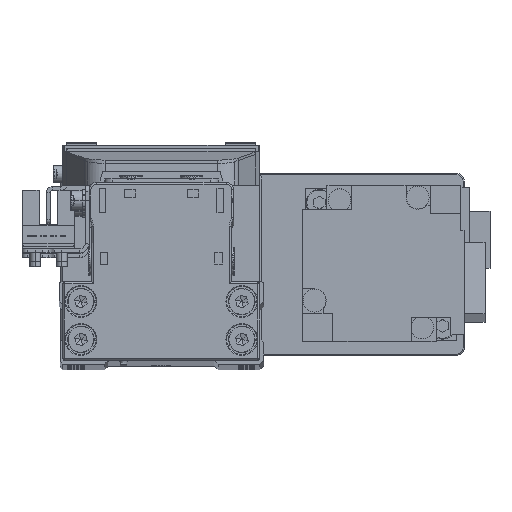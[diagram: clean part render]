
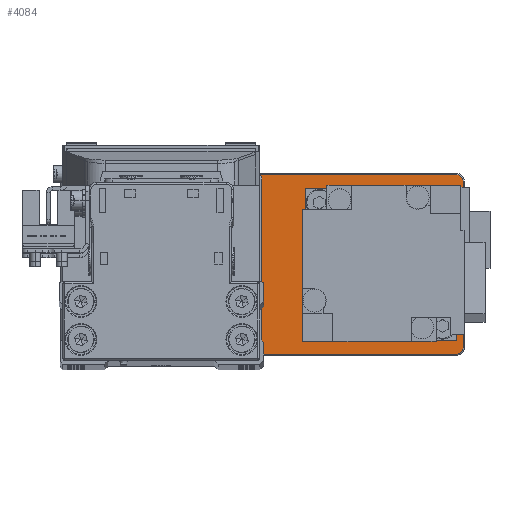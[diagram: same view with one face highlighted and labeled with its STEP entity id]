
A CAD part, top view. The second image highlights one B-rep face of the part: STEP entity #4084.
In plain terms, the highlighted planar face has unit normal (0, 0, 1).
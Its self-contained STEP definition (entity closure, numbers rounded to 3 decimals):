
#724 = DIRECTION ( 'NONE',  ( 1., 0., 0. ) ) ;
#873 = DIRECTION ( 'NONE',  ( 1., 0., 0. ) ) ;
#953 = CARTESIAN_POINT ( 'NONE',  ( -17.7, 0., 5. ) ) ;
#1357 = FACE_BOUND ( 'NONE', #9480, .T. ) ;
#1541 = CARTESIAN_POINT ( 'NONE',  ( 50., -22., 5. ) ) ;
#2562 = CARTESIAN_POINT ( 'NONE',  ( 30., 0., 5. ) ) ;
#2629 = CARTESIAN_POINT ( 'NONE',  ( -28., 0., 5. ) ) ;
#2700 = CIRCLE ( 'NONE', #7944, 12.8 ) ;
#2898 = CIRCLE ( 'NONE', #25845, 10.3 ) ;
#3066 = EDGE_CURVE ( 'NONE', #37426, #10943, #16514, .T. ) ;
#3167 = EDGE_CURVE ( 'NONE', #19877, #15252, #9309, .T. ) ;
#3279 = CARTESIAN_POINT ( 'NONE',  ( 50., 22., 5. ) ) ;
#3575 = CARTESIAN_POINT ( 'NONE',  ( 30., 0., 5. ) ) ;
#3588 = LINE ( 'NONE', #16096, #37947 ) ;
#4063 = VERTEX_POINT ( 'NONE', #32574 ) ;
#4084 = ADVANCED_FACE ( 'NONE', ( #1357, #13873, #26399 ), #38958, .T. ) ;
#5298 = DIRECTION ( 'NONE',  ( -1., 0., 0. ) ) ;
#5982 = CIRCLE ( 'NONE', #28949, 1.7 ) ;
#6928 = EDGE_LOOP ( 'NONE', ( #35463, #17037, #22692, #34603, #10028, #23772, #22684, #23401 ) ) ;
#7345 = ORIENTED_EDGE ( 'NONE', *, *, #39750, .T. ) ;
#7944 = AXIS2_PLACEMENT_3D ( 'NONE', #3575, #16078, #28630 ) ;
#8102 = CARTESIAN_POINT ( 'NONE',  ( 51.7, 22., 5. ) ) ;
#8121 = CARTESIAN_POINT ( 'NONE',  ( 50., 23.7, 5. ) ) ;
#9083 = DIRECTION ( 'NONE',  ( 0., 0., -1. ) ) ;
#9109 = VERTEX_POINT ( 'NONE', #10334 ) ;
#9309 = LINE ( 'NONE', #21828, #39734 ) ;
#9480 = EDGE_LOOP ( 'NONE', ( #9738, #18282 ) ) ;
#9497 = CARTESIAN_POINT ( 'NONE',  ( -50., -23.7, 5. ) ) ;
#9738 = ORIENTED_EDGE ( 'NONE', *, *, #3066, .T. ) ;
#10028 = ORIENTED_EDGE ( 'NONE', *, *, #35803, .T. ) ;
#10251 = EDGE_CURVE ( 'NONE', #10943, #37426, #2700, .T. ) ;
#10334 = CARTESIAN_POINT ( 'NONE',  ( -51.7, -22., 5. ) ) ;
#10775 = CARTESIAN_POINT ( 'NONE',  ( 0., 0., 5. ) ) ;
#10943 = VERTEX_POINT ( 'NONE', #36190 ) ;
#12271 = LINE ( 'NONE', #24809, #17572 ) ;
#12617 = CIRCLE ( 'NONE', #17865, 1.7 ) ;
#12667 = AXIS2_PLACEMENT_3D ( 'NONE', #3279, #15780, #28322 ) ;
#12694 = CARTESIAN_POINT ( 'NONE',  ( -51.7, 22., 5. ) ) ;
#12890 = VERTEX_POINT ( 'NONE', #953 ) ;
#13873 = FACE_BOUND ( 'NONE', #16287, .T. ) ;
#13931 = CIRCLE ( 'NONE', #36911, 1.7 ) ;
#14061 = DIRECTION ( 'NONE',  ( 0., 0., 1. ) ) ;
#15081 = DIRECTION ( 'NONE',  ( 0., 0., -1. ) ) ;
#15139 = DIRECTION ( 'NONE',  ( 0., 0., -1. ) ) ;
#15220 = CARTESIAN_POINT ( 'NONE',  ( 50., -23.7, 5. ) ) ;
#15252 = VERTEX_POINT ( 'NONE', #15220 ) ;
#15780 = DIRECTION ( 'NONE',  ( 0., 0., 1. ) ) ;
#16078 = DIRECTION ( 'NONE',  ( 0., 0., -1. ) ) ;
#16096 = CARTESIAN_POINT ( 'NONE',  ( -51.7, -22., 5. ) ) ;
#16185 = AXIS2_PLACEMENT_3D ( 'NONE', #2629, #15139, #27677 ) ;
#16287 = EDGE_LOOP ( 'NONE', ( #7345, #23732 ) ) ;
#16307 = VECTOR ( 'NONE', #5298, 1000. ) ;
#16327 = CARTESIAN_POINT ( 'NONE',  ( -50., -22., 5. ) ) ;
#16493 = CARTESIAN_POINT ( 'NONE',  ( -50., 22., 5. ) ) ;
#16514 = CIRCLE ( 'NONE', #21751, 12.8 ) ;
#17037 = ORIENTED_EDGE ( 'NONE', *, *, #22366, .T. ) ;
#17275 = CARTESIAN_POINT ( 'NONE',  ( 42.8, 0., 5. ) ) ;
#17572 = VECTOR ( 'NONE', #37376, 1000. ) ;
#17576 = EDGE_CURVE ( 'NONE', #4063, #28879, #12271, .T. ) ;
#17865 = AXIS2_PLACEMENT_3D ( 'NONE', #16493, #29022, #873 ) ;
#18282 = ORIENTED_EDGE ( 'NONE', *, *, #10251, .T. ) ;
#18544 = VERTEX_POINT ( 'NONE', #18940 ) ;
#18940 = CARTESIAN_POINT ( 'NONE',  ( -38.3, 0., 5. ) ) ;
#19877 = VERTEX_POINT ( 'NONE', #9497 ) ;
#20888 = LINE ( 'NONE', #33456, #16307 ) ;
#21116 = EDGE_CURVE ( 'NONE', #9109, #19877, #5982, .T. ) ;
#21601 = DIRECTION ( 'NONE',  ( 1., 0., 0. ) ) ;
#21751 = AXIS2_PLACEMENT_3D ( 'NONE', #2562, #15081, #27617 ) ;
#21828 = CARTESIAN_POINT ( 'NONE',  ( 50., -23.7, 5. ) ) ;
#22366 = EDGE_CURVE ( 'NONE', #15252, #4063, #13931, .T. ) ;
#22684 = ORIENTED_EDGE ( 'NONE', *, *, #36797, .T. ) ;
#22692 = ORIENTED_EDGE ( 'NONE', *, *, #17576, .T. ) ;
#22751 = EDGE_CURVE ( 'NONE', #39649, #31206, #12617, .T. ) ;
#23297 = DIRECTION ( 'NONE',  ( 0., 0., 1. ) ) ;
#23401 = ORIENTED_EDGE ( 'NONE', *, *, #21116, .T. ) ;
#23572 = EDGE_CURVE ( 'NONE', #28879, #31951, #30416, .T. ) ;
#23732 = ORIENTED_EDGE ( 'NONE', *, *, #24263, .T. ) ;
#23772 = ORIENTED_EDGE ( 'NONE', *, *, #22751, .T. ) ;
#24263 = EDGE_CURVE ( 'NONE', #18544, #12890, #2898, .T. ) ;
#24809 = CARTESIAN_POINT ( 'NONE',  ( 51.7, 22., 5. ) ) ;
#25845 = AXIS2_PLACEMENT_3D ( 'NONE', #37244, #9083, #21601 ) ;
#26399 = FACE_OUTER_BOUND ( 'NONE', #6928, .T. ) ;
#26589 = DIRECTION ( 'NONE',  ( 1., 0., 0. ) ) ;
#27617 = DIRECTION ( 'NONE',  ( 1., 0., 0. ) ) ;
#27677 = DIRECTION ( 'NONE',  ( 1., 0., 0. ) ) ;
#28322 = DIRECTION ( 'NONE',  ( 1., 0., 0. ) ) ;
#28630 = DIRECTION ( 'NONE',  ( 1., 0., 0. ) ) ;
#28649 = DIRECTION ( 'NONE',  ( 0., -1., 0. ) ) ;
#28872 = DIRECTION ( 'NONE',  ( 0., 0., 1. ) ) ;
#28879 = VERTEX_POINT ( 'NONE', #8102 ) ;
#28949 = AXIS2_PLACEMENT_3D ( 'NONE', #16327, #28872, #724 ) ;
#29022 = DIRECTION ( 'NONE',  ( 0., 0., 1. ) ) ;
#30416 = CIRCLE ( 'NONE', #12667, 1.7 ) ;
#31206 = VERTEX_POINT ( 'NONE', #12694 ) ;
#31951 = VERTEX_POINT ( 'NONE', #8121 ) ;
#32574 = CARTESIAN_POINT ( 'NONE',  ( 51.7, -22., 5. ) ) ;
#33456 = CARTESIAN_POINT ( 'NONE',  ( -50., 23.7, 5. ) ) ;
#33924 = CIRCLE ( 'NONE', #16185, 10.3 ) ;
#34385 = DIRECTION ( 'NONE',  ( 1., 0., 0. ) ) ;
#34603 = ORIENTED_EDGE ( 'NONE', *, *, #23572, .T. ) ;
#35463 = ORIENTED_EDGE ( 'NONE', *, *, #3167, .T. ) ;
#35803 = EDGE_CURVE ( 'NONE', #31951, #39649, #20888, .T. ) ;
#35855 = DIRECTION ( 'NONE',  ( 1., 0., 0. ) ) ;
#36190 = CARTESIAN_POINT ( 'NONE',  ( 17.2, 0., 5. ) ) ;
#36797 = EDGE_CURVE ( 'NONE', #31206, #9109, #3588, .T. ) ;
#36911 = AXIS2_PLACEMENT_3D ( 'NONE', #1541, #14061, #26589 ) ;
#37244 = CARTESIAN_POINT ( 'NONE',  ( -28., 0., 5. ) ) ;
#37376 = DIRECTION ( 'NONE',  ( 0., 1., 0. ) ) ;
#37426 = VERTEX_POINT ( 'NONE', #17275 ) ;
#37815 = AXIS2_PLACEMENT_3D ( 'NONE', #10775, #23297, #35855 ) ;
#37947 = VECTOR ( 'NONE', #28649, 1000. ) ;
#38958 = PLANE ( 'NONE',  #37815 ) ;
#39435 = CARTESIAN_POINT ( 'NONE',  ( -50., 23.7, 5. ) ) ;
#39649 = VERTEX_POINT ( 'NONE', #39435 ) ;
#39734 = VECTOR ( 'NONE', #34385, 1000. ) ;
#39750 = EDGE_CURVE ( 'NONE', #12890, #18544, #33924, .T. ) ;
